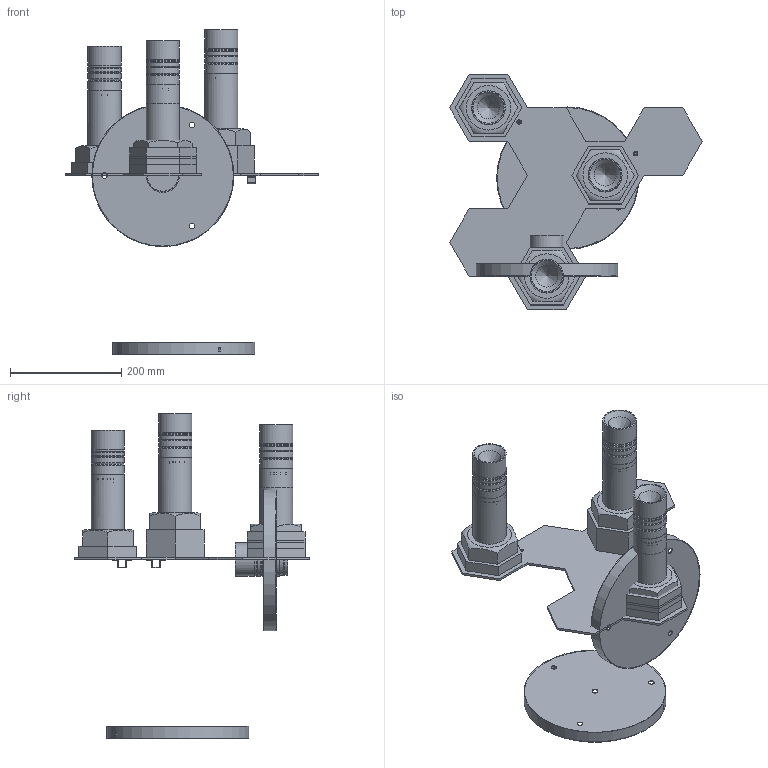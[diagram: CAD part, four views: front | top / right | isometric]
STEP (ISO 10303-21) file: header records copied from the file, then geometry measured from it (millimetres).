
FILE_DESCRIPTION( ( 'STEP AP203' ), '1' );
FILE_NAME( '//srvbf/BF Disegni/ARRIGHI FRANCESCA/DADO/DADO-S3 Sospensione DADO.stp', '2020-10-15T06:46:26', ( ' ' ), ( ' ' ), 'XStep 1.0', ' ', ' ' );
FILE_SCHEMA( ( 'CONFIG_CONTROL_DESIGN) ( )' ) );
Length unit declared in the file: metre
Products named in the file (12): Assem1; Assem2; 1; 2; 3; 4; 5; 6; 7; 8; 9; 10
Bounding box: 455 x 424.35 x 584.96 mm (x, y, z)
Volume: 4646955.7 mm3; surface area: 1433379.5 mm2
Topology: 34 solids, 34 shells, 552 faces, 1417 edges, 933 vertices
Faces by surface type: plane 328, cylinder 167, cone 45, torus 8, bspline 4
Full cylindrical faces by diameter (mm): 2 x7, 5 x9, 10 x10, 10.5 x2, 11 x15, 54.37 x4, 55.969 x8, 57 x4, 59.967 x20, 60 x4, 61 x4, 254 x2, 256 x2
Entity records: 5403 total; most frequent: CARTESIAN_POINT 1174, DIRECTION 764, ORIENTED_EDGE 680, EDGE_CURVE 340, AXIS2_PLACEMENT_3D 271, VERTEX_POINT 249, EDGE_LOOP 240, LINE 222
